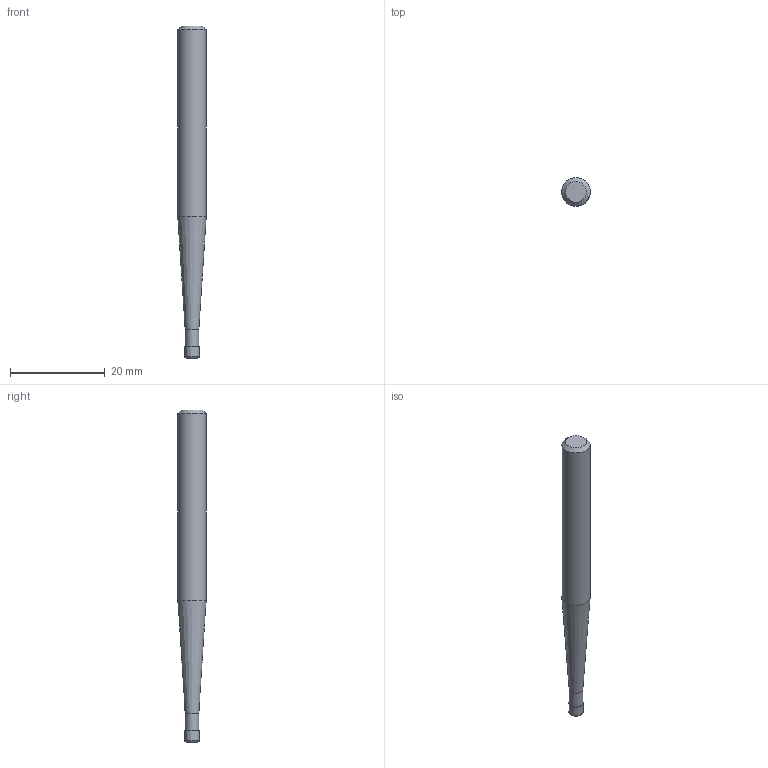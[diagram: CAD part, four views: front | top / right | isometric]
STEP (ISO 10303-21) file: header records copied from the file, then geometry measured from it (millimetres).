
FILE_DESCRIPTION((''),'2;1');
FILE_NAME('C:\Users\nsx150\AppData\Local\Temp\Mastercam 2021\YKS1SUSFZB\TEMP.step','2025-06-23T14:05:05',(''),(''),'STEP Write','Mastercam 2021 ... CNC Software, Inc.','');
FILE_SCHEMA(('AUTOMOTIVE_DESIGN'));
Length unit declared in the file: millimetre
Products named in the file (1): None
Bounding box: 6 x 6 x 70 mm (x, y, z)
Volume: 1554.3 mm3; surface area: 1183.4 mm2
Topology: 2 solids, 2 shells, 10 faces, 14 edges, 8 vertices
Faces by surface type: plane 4, cylinder 3, cone 2, torus 1
Full cylindrical faces by diameter (mm): 2.885 x1, 3 x1, 6 x1
Entity records: 232 total; most frequent: DIRECTION 40, CARTESIAN_POINT 28, AXIS2_PLACEMENT_3D 20, ORIENTED_EDGE 16, EDGE_LOOP 16, STYLED_ITEM 13, ADVANCED_FACE 10, FACE_BOUND 10
